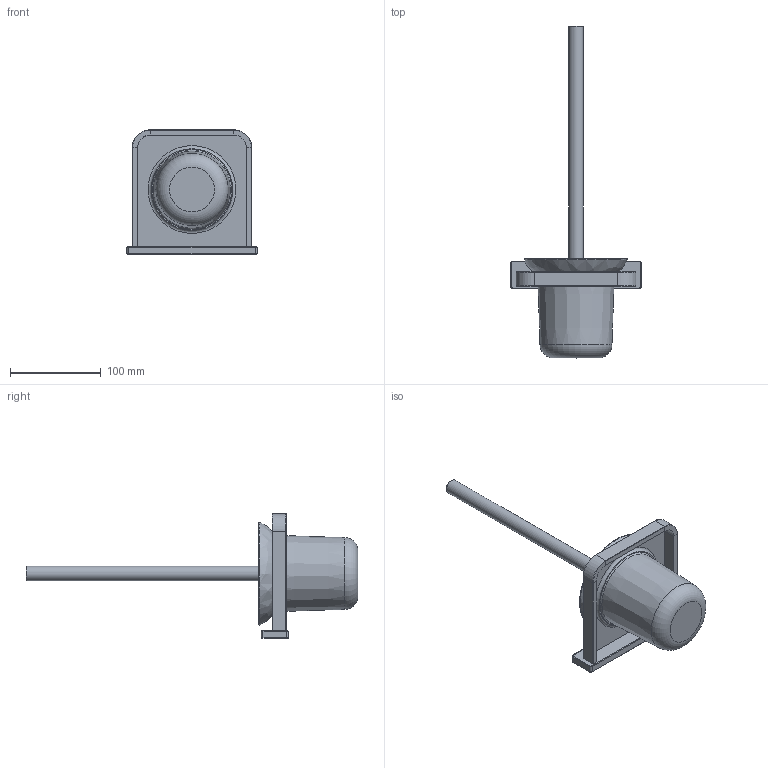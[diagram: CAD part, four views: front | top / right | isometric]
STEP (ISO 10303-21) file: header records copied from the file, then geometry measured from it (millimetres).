
FILE_DESCRIPTION(/* description */ (''),/* implementation_level */ '2;1');
FILE_NAME(/* name */ 'c:\worker\convert-fusion-r05\tmp\job-1\5\output\files\1016487d-ee36-4e64-a763-23eeb84b70b2\3f3a6665-751b-42db-94a7-98af29ad64d0.zip.stp',/* time_stamp */ '2019-07-12T08:54:08+00:00',/* author */ (''),/* organization */ (''),/* preprocessor_version */ 'ST-DEVELOPER v18',/* originating_system */ 'Autodesk Translation Framework v8.2.0.1029',/* authorisation */ '');
FILE_SCHEMA (('AUTOMOTIVE_DESIGN { 1 0 10303 214 3 1 1 }'));
Length unit declared in the file: millimetre
Products named in the file (1): !DA70620
Bounding box: 143.7 x 366.76 x 137.5 mm (x, y, z)
Volume: 629626.7 mm3; surface area: 155499.1 mm2
Topology: 7 solids, 7 shells, 93 faces, 196 edges, 117 vertices
Faces by surface type: plane 38, cylinder 24, torus 19, bspline 7, cone 4, sphere 1
Full cylindrical faces by diameter (mm): 16 x1, 28 x1
Entity records: 4993 total; most frequent: CARTESIAN_POINT 2940, DIRECTION 458, ORIENTED_EDGE 390, EDGE_CURVE 195, AXIS2_PLACEMENT_3D 186, VERTEX_POINT 117, CIRCLE 99, EDGE_LOOP 96
